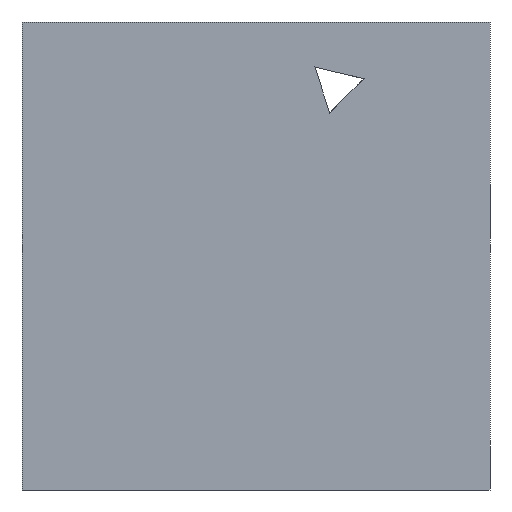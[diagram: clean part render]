
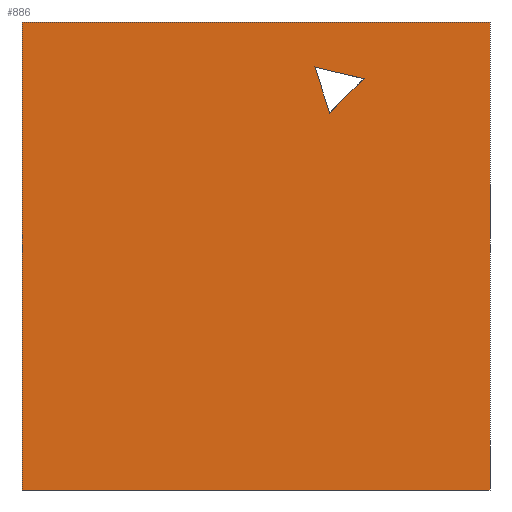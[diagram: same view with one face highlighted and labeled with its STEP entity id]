
A CAD part, left-side view. The second image highlights one B-rep face of the part: STEP entity #886.
In plain terms, the highlighted planar face has unit normal (-1, 0, 0).
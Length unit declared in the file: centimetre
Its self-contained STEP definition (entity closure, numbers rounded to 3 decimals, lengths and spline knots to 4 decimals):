
#37 = ORIENTED_EDGE ( 'NONE', *, *, #970, .F. ) ;
#38 = LINE ( 'NONE', #547, #1097 ) ;
#45 = VERTEX_POINT ( 'NONE', #611 ) ;
#85 = VECTOR ( 'NONE', #871, 100. ) ;
#86 = EDGE_CURVE ( 'NONE', #468, #212, #349, .T. ) ;
#91 = ORIENTED_EDGE ( 'NONE', *, *, #86, .T. ) ;
#99 = VERTEX_POINT ( 'NONE', #260 ) ;
#149 = VECTOR ( 'NONE', #490, 100. ) ;
#150 = CARTESIAN_POINT ( 'NONE',  ( 0., 0., 1000. ) ) ;
#155 = EDGE_CURVE ( 'NONE', #99, #1017, #822, .T. ) ;
#187 = CARTESIAN_POINT ( 'NONE',  ( 0., 269.0657, 878.6307 ) ) ;
#212 = VERTEX_POINT ( 'NONE', #422 ) ;
#216 = CARTESIAN_POINT ( 'NONE',  ( 0., 342.265, 805.4315 ) ) ;
#232 = CARTESIAN_POINT ( 'NONE',  ( 0., 0., 0. ) ) ;
#237 = DIRECTION ( 'NONE',  ( 0., 0., -1. ) ) ;
#260 = CARTESIAN_POINT ( 'NONE',  ( 0., 1000., 0. ) ) ;
#308 = ORIENTED_EDGE ( 'NONE', *, *, #513, .T. ) ;
#314 = ORIENTED_EDGE ( 'NONE', *, *, #798, .T. ) ;
#324 = LINE ( 'NONE', #150, #393 ) ;
#347 = DIRECTION ( 'NONE',  ( 0., -0.972, -0.235 ) ) ;
#349 = LINE ( 'NONE', #440, #641 ) ;
#369 = DIRECTION ( 'NONE',  ( 0., 0., -1. ) ) ;
#370 = AXIS2_PLACEMENT_3D ( 'NONE', #949, #477, #369 ) ;
#387 = VERTEX_POINT ( 'NONE', #710 ) ;
#393 = VECTOR ( 'NONE', #237, 100. ) ;
#422 = CARTESIAN_POINT ( 'NONE',  ( 0., 374.2997, 904.019 ) ) ;
#440 = CARTESIAN_POINT ( 'NONE',  ( 0., 374.2997, 904.019 ) ) ;
#468 = VERTEX_POINT ( 'NONE', #838 ) ;
#477 = DIRECTION ( 'NONE',  ( 1., 0., 0. ) ) ;
#484 = FACE_OUTER_BOUND ( 'NONE', #1022, .T. ) ;
#490 = DIRECTION ( 'NONE',  ( 0., 0., -1. ) ) ;
#513 = EDGE_CURVE ( 'NONE', #45, #99, #1123, .T. ) ;
#547 = CARTESIAN_POINT ( 'NONE',  ( 0., 1000., 1000. ) ) ;
#556 = CARTESIAN_POINT ( 'NONE',  ( 0., 1000., 1000. ) ) ;
#569 = PLANE ( 'NONE',  #370 ) ;
#580 = EDGE_LOOP ( 'NONE', ( #934, #91, #314 ) ) ;
#611 = CARTESIAN_POINT ( 'NONE',  ( 0., 1000., 1000. ) ) ;
#630 = VECTOR ( 'NONE', #347, 100. ) ;
#637 = CARTESIAN_POINT ( 'NONE',  ( 0., 0., 1000. ) ) ;
#641 = VECTOR ( 'NONE', #891, 100. ) ;
#710 = CARTESIAN_POINT ( 'NONE',  ( 0., 269.0657, 878.6307 ) ) ;
#712 = VECTOR ( 'NONE', #1020, 100. ) ;
#739 = LINE ( 'NONE', #216, #712 ) ;
#798 = EDGE_CURVE ( 'NONE', #212, #387, #806, .T. ) ;
#806 = LINE ( 'NONE', #187, #630 ) ;
#822 = LINE ( 'NONE', #1142, #85 ) ;
#838 = CARTESIAN_POINT ( 'NONE',  ( 0., 342.265, 805.4315 ) ) ;
#844 = FACE_BOUND ( 'NONE', #580, .T. ) ;
#871 = DIRECTION ( 'NONE',  ( 0., -1., 0. ) ) ;
#886 = ADVANCED_FACE ( 'NONE', ( #844, #484 ), #569, .F. ) ;
#891 = DIRECTION ( 'NONE',  ( 0., 0.309, 0.951 ) ) ;
#917 = ORIENTED_EDGE ( 'NONE', *, *, #1099, .F. ) ;
#934 = ORIENTED_EDGE ( 'NONE', *, *, #981, .T. ) ;
#949 = CARTESIAN_POINT ( 'NONE',  ( 0., 1000., 1000. ) ) ;
#953 = VERTEX_POINT ( 'NONE', #637 ) ;
#970 = EDGE_CURVE ( 'NONE', #45, #953, #38, .T. ) ;
#981 = EDGE_CURVE ( 'NONE', #387, #468, #739, .T. ) ;
#1017 = VERTEX_POINT ( 'NONE', #232 ) ;
#1020 = DIRECTION ( 'NONE',  ( 0., 0.707, -0.707 ) ) ;
#1022 = EDGE_LOOP ( 'NONE', ( #1023, #917, #37, #308 ) ) ;
#1023 = ORIENTED_EDGE ( 'NONE', *, *, #155, .T. ) ;
#1028 = DIRECTION ( 'NONE',  ( 0., -1., 0. ) ) ;
#1097 = VECTOR ( 'NONE', #1028, 100. ) ;
#1099 = EDGE_CURVE ( 'NONE', #953, #1017, #324, .T. ) ;
#1123 = LINE ( 'NONE', #556, #149 ) ;
#1142 = CARTESIAN_POINT ( 'NONE',  ( 0., 1000., 0. ) ) ;
